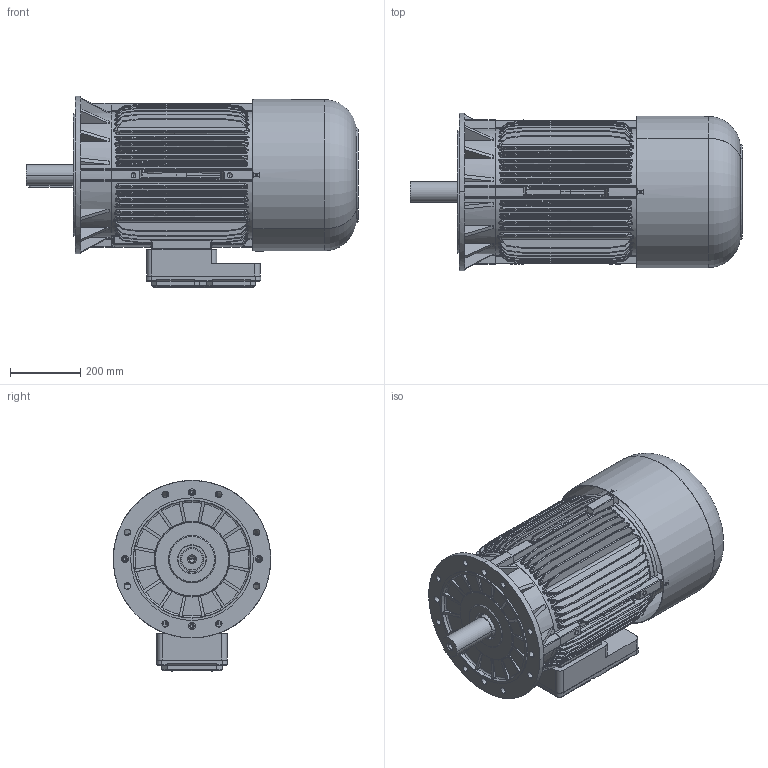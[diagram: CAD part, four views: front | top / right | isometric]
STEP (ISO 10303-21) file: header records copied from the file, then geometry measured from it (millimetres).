
FILE_DESCRIPTION (( 'STEP AP214' ), '1' );
FILE_NAME ('M14OB0012.STEP', '2019-10-16T09:43:43', ( '' ), ( '' ), 'SwSTEP 2.0', 'SolidWorks 2018', '' );
FILE_SCHEMA (( 'AUTOMOTIVE_DESIGN' ));
Length unit declared in the file: millimetre
Products named in the file (11): Carcassa 225 M B5 - REV 1 - LAVORATO; M14OB0012; Scatola Morsettiera 225-250 -280 - Completa; Guarnizioni Scatola Morsettiera 225-250-280 - D7C40109; Coperchio Scatola Morsettiera 225-250 - 280 - D7C20109; Scatola Morsettiera 225-250 -280 - D7C10209; Cuffia BM 225 - D7CG0004; Chiavetta 225 4-6-8p; Albero BM 225 M; Scudo a Flangia B5 BAH 225 - REV 0 - 9-9-14 - D7BD0203; Scudo Lato Freno P1 BM 225 - D7B80104
Assembly tree (10 placements, depth 3):
  M14OB0012
    Carcassa 225 M B5 - REV 1 - LAVORATO
    Scudo Lato Freno P1 BM 225 - D7B80104
    Scudo a Flangia B5 BAH 225 - REV 0 - 9-9-14 - D7BD0203
    Albero BM 225 M
    Chiavetta 225 4-6-8p
    Cuffia BM 225 - D7CG0004
    Scatola Morsettiera 225-250 -280 - Completa
      Scatola Morsettiera 225-250 -280 - D7C10209
      Coperchio Scatola Morsettiera 225-250 - 280 - D7C20109
      Guarnizioni Scatola Morsettiera 225-250-280 - D7C40109
Bounding box: 948 x 450 x 546 mm (x, y, z)
Volume: 24027614.8 mm3; surface area: 4538511.7 mm2
Topology: 9 solids, 9 shells, 5635 faces, 14839 edges, 9226 vertices
Faces by surface type: cylinder 2061, plane 1868, bspline 1302, torus 204, cone 176, sphere 24
Entity records: 255213 total; most frequent: CARTESIAN_POINT 122581, ORIENTED_EDGE 29456, DIRECTION 24121, EDGE_CURVE 14728, VERTEX_POINT 9226, AXIS2_PLACEMENT_3D 8710, LINE 6701, VECTOR 6701
